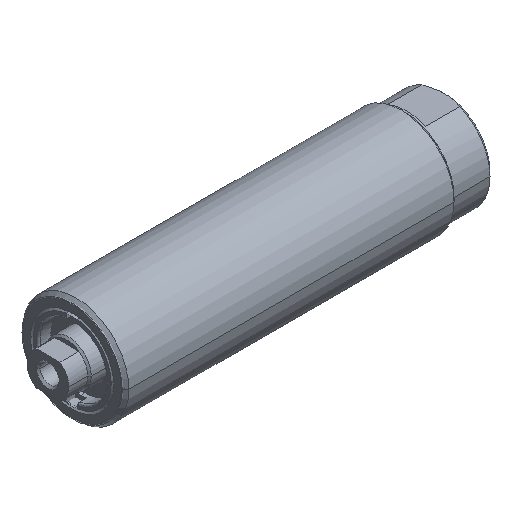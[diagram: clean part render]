
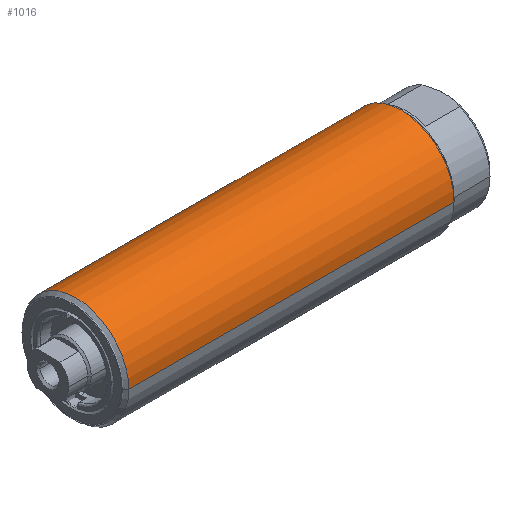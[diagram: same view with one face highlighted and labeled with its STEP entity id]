
A CAD part, isometric view. The second image highlights one B-rep face of the part: STEP entity #1016.
In plain terms, the highlighted cylindrical face has radius 14 mm (diameter 28 mm), a partial arc.
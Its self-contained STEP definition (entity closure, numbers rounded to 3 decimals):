
#214=CARTESIAN_POINT('',(1.,0.,0.));
#215=DIRECTION('',(-1.,0.,0.));
#216=DIRECTION('',(0.,-1.,0.));
#217=AXIS2_PLACEMENT_3D('',#214,#215,#216);
#219=CARTESIAN_POINT('',(87.,0.,0.));
#220=DIRECTION('',(1.,0.,0.));
#221=DIRECTION('',(0.,1.,0.));
#222=AXIS2_PLACEMENT_3D('',#219,#220,#221);
#229=DIRECTION('',(-1.,0.,0.));
#230=VECTOR('',#229,86.);
#231=CARTESIAN_POINT('',(87.,-14.,0.));
#232=LINE('',#231,#230);
#238=DIRECTION('',(-1.,0.,0.));
#239=VECTOR('',#238,86.);
#240=CARTESIAN_POINT('',(87.,14.,0.));
#241=LINE('',#240,#239);
#519=CARTESIAN_POINT('',(87.,14.,0.));
#521=VERTEX_POINT('',#519);
#523=CARTESIAN_POINT('',(87.,-14.,0.));
#525=VERTEX_POINT('',#523);
#538=CARTESIAN_POINT('',(1.,14.,0.));
#539=CARTESIAN_POINT('',(1.,-14.,0.));
#540=VERTEX_POINT('',#538);
#541=VERTEX_POINT('',#539);
#1002=CARTESIAN_POINT('',(-4.925,0.,0.));
#1003=DIRECTION('',(1.,0.,0.));
#1004=DIRECTION('',(0.,-1.,0.));
#1005=AXIS2_PLACEMENT_3D('',#1002,#1003,#1004);
#1006=CYLINDRICAL_SURFACE('',#1005,14.);
#1007=ORIENTED_EDGE('',*,*,#996,.T.);
#1009=ORIENTED_EDGE('',*,*,#1008,.F.);
#1011=ORIENTED_EDGE('',*,*,#1010,.T.);
#1013=ORIENTED_EDGE('',*,*,#1012,.T.);
#1014=EDGE_LOOP('',(#1007,#1009,#1011,#1013));
#1015=FACE_OUTER_BOUND('',#1014,.F.);
#1016=ADVANCED_FACE('',(#1015),#1006,.T.);
#218=CIRCLE('',#217,14.);
#223=CIRCLE('',#222,14.);
#996=EDGE_CURVE('',#541,#540,#218,.T.);
#1008=EDGE_CURVE('',#521,#540,#241,.T.);
#1010=EDGE_CURVE('',#521,#525,#223,.T.);
#1012=EDGE_CURVE('',#525,#541,#232,.T.);
